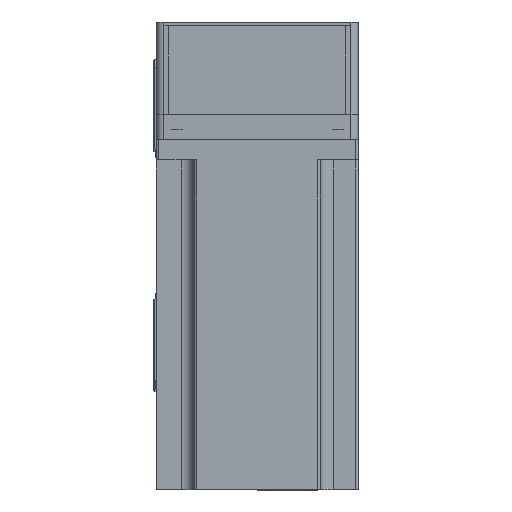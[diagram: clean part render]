
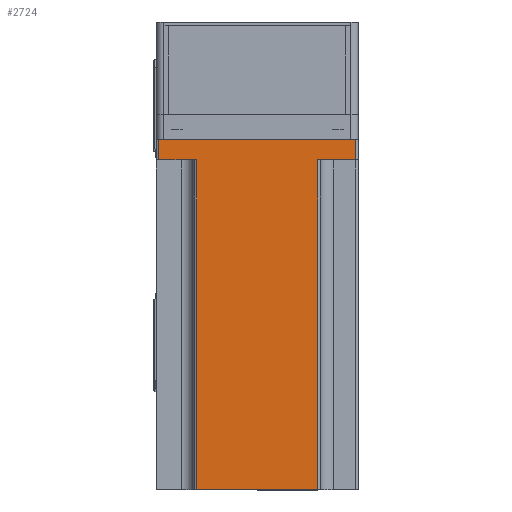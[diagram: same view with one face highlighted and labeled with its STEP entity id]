
A CAD part, top view. The second image highlights one B-rep face of the part: STEP entity #2724.
In plain terms, the highlighted planar face has unit normal (0, 0, 1) as drawn and (0, 1, 0) by its records, which use the part's own axes.
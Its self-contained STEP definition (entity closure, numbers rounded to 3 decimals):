
#224 = DIRECTION ( 'NONE',  ( 0., 0., 1. ) ) ;
#793 = ORIENTED_EDGE ( 'NONE', *, *, #22505, .T. ) ;
#1721 = LINE ( 'NONE', #38455, #26547 ) ;
#2294 = CARTESIAN_POINT ( 'NONE',  ( 24., 40., 138.3 ) ) ;
#2724 = ADVANCED_FACE ( 'NONE', ( #5077 ), #2751, .F. ) ;
#2751 = PLANE ( 'NONE',  #6391 ) ;
#3299 = CARTESIAN_POINT ( 'NONE',  ( 40., 40., 0. ) ) ;
#3467 = DIRECTION ( 'NONE',  ( -1., 0., 0. ) ) ;
#3512 = EDGE_LOOP ( 'NONE', ( #4271, #793, #20441, #12131, #16781, #26082, #22425, #18083 ) ) ;
#4271 = ORIENTED_EDGE ( 'NONE', *, *, #33596, .T. ) ;
#4586 = DIRECTION ( 'NONE',  ( -1., 0., 0. ) ) ;
#5077 = FACE_OUTER_BOUND ( 'NONE', #3512, .T. ) ;
#6032 = DIRECTION ( 'NONE',  ( 0., -1., 0. ) ) ;
#6195 = VERTEX_POINT ( 'NONE', #35842 ) ;
#6391 = AXIS2_PLACEMENT_3D ( 'NONE', #12355, #6032, #28618 ) ;
#6679 = DIRECTION ( 'NONE',  ( 0., 0., -1. ) ) ;
#7470 = LINE ( 'NONE', #30241, #40847 ) ;
#8676 = CARTESIAN_POINT ( 'NONE',  ( 39., 40., 8. ) ) ;
#10072 = CARTESIAN_POINT ( 'NONE',  ( 24., 40., 138.3 ) ) ;
#11201 = CARTESIAN_POINT ( 'NONE',  ( 40., 40., 138.3 ) ) ;
#11979 = CARTESIAN_POINT ( 'NONE',  ( 39., 40., 0. ) ) ;
#12049 = VECTOR ( 'NONE', #224, 1000. ) ;
#12131 = ORIENTED_EDGE ( 'NONE', *, *, #21750, .T. ) ;
#12355 = CARTESIAN_POINT ( 'NONE',  ( 40., 40., 138.3 ) ) ;
#12830 = VERTEX_POINT ( 'NONE', #30638 ) ;
#13053 = CARTESIAN_POINT ( 'NONE',  ( 25., 40., 8. ) ) ;
#15275 = DIRECTION ( 'NONE',  ( 0., 0., -1. ) ) ;
#15409 = VERTEX_POINT ( 'NONE', #11979 ) ;
#16781 = ORIENTED_EDGE ( 'NONE', *, *, #25356, .F. ) ;
#18083 = ORIENTED_EDGE ( 'NONE', *, *, #26047, .T. ) ;
#18204 = VERTEX_POINT ( 'NONE', #8676 ) ;
#19559 = DIRECTION ( 'NONE',  ( -1., 0., 0. ) ) ;
#19627 = CARTESIAN_POINT ( 'NONE',  ( -24., 40., 138.3 ) ) ;
#20178 = VECTOR ( 'NONE', #19559, 1000. ) ;
#20441 = ORIENTED_EDGE ( 'NONE', *, *, #29884, .F. ) ;
#21161 = CARTESIAN_POINT ( 'NONE',  ( -24., 40., 8. ) ) ;
#21750 = EDGE_CURVE ( 'NONE', #30283, #39511, #32875, .T. ) ;
#22425 = ORIENTED_EDGE ( 'NONE', *, *, #37789, .T. ) ;
#22505 = EDGE_CURVE ( 'NONE', #36666, #6195, #29265, .T. ) ;
#22997 = CARTESIAN_POINT ( 'NONE',  ( -39., 40., 8. ) ) ;
#24280 = VECTOR ( 'NONE', #15275, 1000. ) ;
#25356 = EDGE_CURVE ( 'NONE', #18204, #39511, #35095, .T. ) ;
#26047 = EDGE_CURVE ( 'NONE', #12830, #27700, #7470, .T. ) ;
#26082 = ORIENTED_EDGE ( 'NONE', *, *, #28924, .T. ) ;
#26087 = CARTESIAN_POINT ( 'NONE',  ( 24., 40., 8. ) ) ;
#26423 = VECTOR ( 'NONE', #4586, 1000. ) ;
#26547 = VECTOR ( 'NONE', #31960, 1000. ) ;
#27700 = VERTEX_POINT ( 'NONE', #22997 ) ;
#28618 = DIRECTION ( 'NONE',  ( 1., 0., 0. ) ) ;
#28760 = LINE ( 'NONE', #3299, #20178 ) ;
#28924 = EDGE_CURVE ( 'NONE', #18204, #15409, #38117, .T. ) ;
#29263 = CARTESIAN_POINT ( 'NONE',  ( 39., 40., 138.3 ) ) ;
#29265 = LINE ( 'NONE', #19627, #12049 ) ;
#29884 = EDGE_CURVE ( 'NONE', #30283, #6195, #34983, .T. ) ;
#30241 = CARTESIAN_POINT ( 'NONE',  ( -39., 40., 138.3 ) ) ;
#30283 = VERTEX_POINT ( 'NONE', #10072 ) ;
#30638 = CARTESIAN_POINT ( 'NONE',  ( -39., 40., 0. ) ) ;
#31960 = DIRECTION ( 'NONE',  ( 1., 0., 0. ) ) ;
#32875 = LINE ( 'NONE', #2294, #24280 ) ;
#33078 = VECTOR ( 'NONE', #3467, 1000. ) ;
#33596 = EDGE_CURVE ( 'NONE', #27700, #36666, #1721, .T. ) ;
#34983 = LINE ( 'NONE', #11201, #26423 ) ;
#35095 = LINE ( 'NONE', #13053, #33078 ) ;
#35842 = CARTESIAN_POINT ( 'NONE',  ( -24., 40., 138.3 ) ) ;
#36666 = VERTEX_POINT ( 'NONE', #21161 ) ;
#37789 = EDGE_CURVE ( 'NONE', #15409, #12830, #28760, .T. ) ;
#38117 = LINE ( 'NONE', #29263, #39154 ) ;
#38455 = CARTESIAN_POINT ( 'NONE',  ( -25., 40., 8. ) ) ;
#39154 = VECTOR ( 'NONE', #6679, 1000. ) ;
#39511 = VERTEX_POINT ( 'NONE', #26087 ) ;
#40018 = DIRECTION ( 'NONE',  ( 0., 0., 1. ) ) ;
#40847 = VECTOR ( 'NONE', #40018, 1000. ) ;
